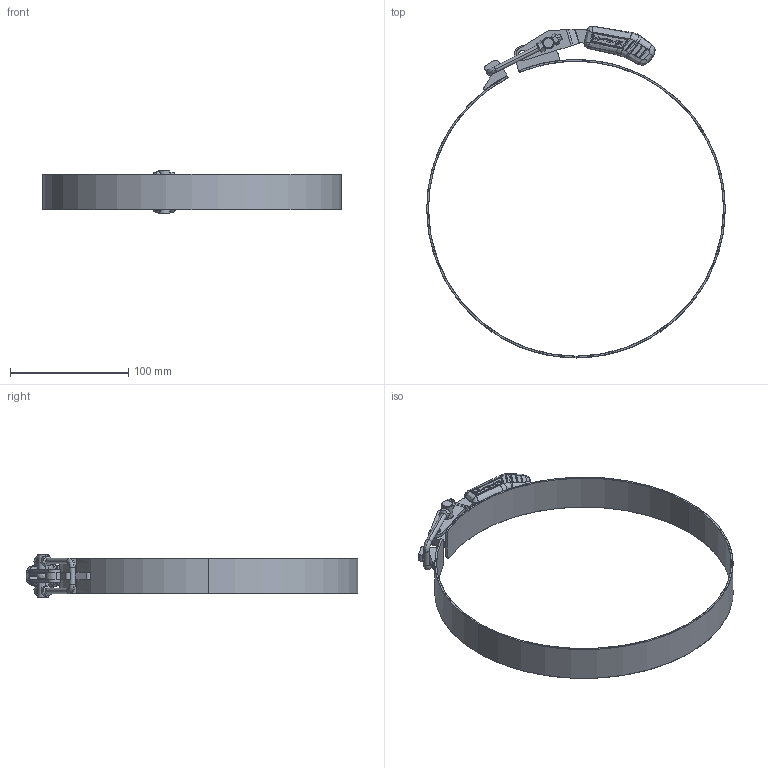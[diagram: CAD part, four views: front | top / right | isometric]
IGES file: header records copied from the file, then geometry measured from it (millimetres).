
Start section: SolidWorks IGES file using analytic representation for surfaces
Global section: file name: P:\SITE KIFIX\KF-743 CT250\KF-743 CT250.SLDASM.IGS; native system: SolidWorks 2019; preprocessor: SolidWorks 2019; author: adriano; date: 200727.151551; units: millimetre
Bounding box: 253 x 281.31 x 37 mm (x, y, z)
Surface area: 70186.6 mm2 (no closed solid volume)
Topology: 0 solids, 0 shells, 834 faces, 7580 edges, 7528 vertices
Faces by surface type: bspline 496, revolution 338
